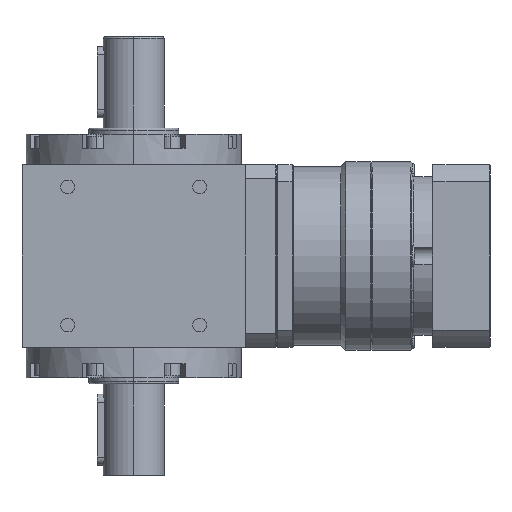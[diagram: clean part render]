
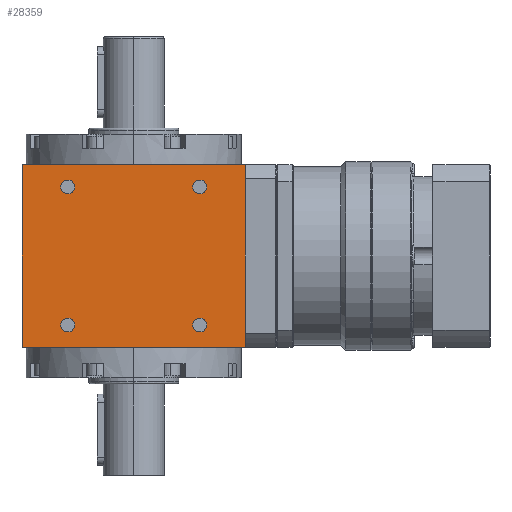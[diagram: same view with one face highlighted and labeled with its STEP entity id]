
A CAD part, left-side view. The second image highlights one B-rep face of the part: STEP entity #28359.
In plain terms, the highlighted planar face has unit normal (-1, 0, 0).
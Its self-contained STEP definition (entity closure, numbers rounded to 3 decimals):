
#354 = VECTOR ( 'NONE', #6203, 1000. ) ;
#466 = VERTEX_POINT ( 'NONE', #13939 ) ;
#484 = DIRECTION ( 'NONE',  ( 0., -1., 0. ) ) ;
#777 = ORIENTED_EDGE ( 'NONE', *, *, #29880, .T. ) ;
#851 = VERTEX_POINT ( 'NONE', #21915 ) ;
#880 = CARTESIAN_POINT ( 'NONE',  ( -55., 29.1, 34. ) ) ;
#1763 = VECTOR ( 'NONE', #21361, 1000. ) ;
#2000 = ORIENTED_EDGE ( 'NONE', *, *, #9046, .T. ) ;
#2588 = AXIS2_PLACEMENT_3D ( 'NONE', #20439, #17911, #25790 ) ;
#2680 = EDGE_CURVE ( 'NONE', #23462, #24659, #4003, .T. ) ;
#2733 = CARTESIAN_POINT ( 'NONE',  ( -55., -29.1, -34. ) ) ;
#4003 = LINE ( 'NONE', #6684, #354 ) ;
#4423 = LINE ( 'NONE', #20184, #15835 ) ;
#4756 = DIRECTION ( 'NONE',  ( 0., 0., 1. ) ) ;
#4916 = DIRECTION ( 'NONE',  ( -1., 0., 0. ) ) ;
#5074 = VERTEX_POINT ( 'NONE', #21902 ) ;
#5584 = CARTESIAN_POINT ( 'NONE',  ( -55., 0., -45. ) ) ;
#5636 = VERTEX_POINT ( 'NONE', #2733 ) ;
#6203 = DIRECTION ( 'NONE',  ( 0., 0., 1. ) ) ;
#6620 = CARTESIAN_POINT ( 'NONE',  ( -55., -55., -45. ) ) ;
#6684 = CARTESIAN_POINT ( 'NONE',  ( -55., 55., -45. ) ) ;
#7084 = FACE_OUTER_BOUND ( 'NONE', #28231, .T. ) ;
#7433 = FACE_BOUND ( 'NONE', #8395, .T. ) ;
#7652 = VERTEX_POINT ( 'NONE', #880 ) ;
#7754 = EDGE_LOOP ( 'NONE', ( #20871, #21885 ) ) ;
#8108 = EDGE_CURVE ( 'NONE', #7652, #5074, #18238, .T. ) ;
#8359 = CARTESIAN_POINT ( 'NONE',  ( -55., 32.5, 34. ) ) ;
#8395 = EDGE_LOOP ( 'NONE', ( #777, #29982 ) ) ;
#8681 = DIRECTION ( 'NONE',  ( 0., -1., 0. ) ) ;
#9046 = EDGE_CURVE ( 'NONE', #25236, #15081, #10443, .T. ) ;
#10149 = ORIENTED_EDGE ( 'NONE', *, *, #10852, .T. ) ;
#10227 = CARTESIAN_POINT ( 'NONE',  ( -55., -29.1, 34. ) ) ;
#10360 = DIRECTION ( 'NONE',  ( 1., 0., 0. ) ) ;
#10443 = CIRCLE ( 'NONE', #15292, 3.4 ) ;
#10526 = AXIS2_PLACEMENT_3D ( 'NONE', #8359, #15905, #8681 ) ;
#10574 = CIRCLE ( 'NONE', #17978, 3.4 ) ;
#10852 = EDGE_CURVE ( 'NONE', #15081, #25236, #10574, .T. ) ;
#11079 = LINE ( 'NONE', #5584, #26472 ) ;
#11418 = AXIS2_PLACEMENT_3D ( 'NONE', #30438, #10360, #20921 ) ;
#11659 = DIRECTION ( 'NONE',  ( 1., 0., 0. ) ) ;
#12252 = PLANE ( 'NONE',  #26005 ) ;
#12332 = AXIS2_PLACEMENT_3D ( 'NONE', #17867, #23413, #484 ) ;
#12522 = EDGE_CURVE ( 'NONE', #16985, #23738, #25029, .T. ) ;
#13113 = ORIENTED_EDGE ( 'NONE', *, *, #21339, .T. ) ;
#13260 = CARTESIAN_POINT ( 'NONE',  ( -55., -32.5, 34. ) ) ;
#13275 = VERTEX_POINT ( 'NONE', #6620 ) ;
#13421 = DIRECTION ( 'NONE',  ( 0., -1., 0. ) ) ;
#13547 = EDGE_LOOP ( 'NONE', ( #10149, #2000 ) ) ;
#13633 = LINE ( 'NONE', #20732, #1763 ) ;
#13678 = CARTESIAN_POINT ( 'NONE',  ( -55., 55., -45. ) ) ;
#13803 = ORIENTED_EDGE ( 'NONE', *, *, #31001, .T. ) ;
#13939 = CARTESIAN_POINT ( 'NONE',  ( -55., -55., 45. ) ) ;
#14044 = DIRECTION ( 'NONE',  ( 0., -1., 0. ) ) ;
#14791 = FACE_BOUND ( 'NONE', #29522, .T. ) ;
#14953 = FACE_BOUND ( 'NONE', #7754, .T. ) ;
#15081 = VERTEX_POINT ( 'NONE', #30134 ) ;
#15253 = EDGE_CURVE ( 'NONE', #5636, #851, #26285, .T. ) ;
#15292 = AXIS2_PLACEMENT_3D ( 'NONE', #13260, #15766, #31310 ) ;
#15766 = DIRECTION ( 'NONE',  ( 1., 0., 0. ) ) ;
#15835 = VECTOR ( 'NONE', #32350, 1000. ) ;
#15905 = DIRECTION ( 'NONE',  ( 1., 0., 0. ) ) ;
#16985 = VERTEX_POINT ( 'NONE', #19703 ) ;
#17406 = ORIENTED_EDGE ( 'NONE', *, *, #2680, .F. ) ;
#17636 = FACE_BOUND ( 'NONE', #13547, .T. ) ;
#17867 = CARTESIAN_POINT ( 'NONE',  ( -55., 32.5, 34. ) ) ;
#17911 = DIRECTION ( 'NONE',  ( 1., 0., 0. ) ) ;
#17978 = AXIS2_PLACEMENT_3D ( 'NONE', #22443, #32612, #14044 ) ;
#18238 = CIRCLE ( 'NONE', #12332, 3.4 ) ;
#19703 = CARTESIAN_POINT ( 'NONE',  ( -55., 29.1, -34. ) ) ;
#19874 = CARTESIAN_POINT ( 'NONE',  ( -55., 35.9, -34. ) ) ;
#19945 = AXIS2_PLACEMENT_3D ( 'NONE', #31897, #11659, #32048 ) ;
#20184 = CARTESIAN_POINT ( 'NONE',  ( -55., -55., -45. ) ) ;
#20439 = CARTESIAN_POINT ( 'NONE',  ( -55., 32.5, -34. ) ) ;
#20732 = CARTESIAN_POINT ( 'NONE',  ( -55., 0., 45. ) ) ;
#20755 = EDGE_CURVE ( 'NONE', #13275, #466, #4423, .T. ) ;
#20871 = ORIENTED_EDGE ( 'NONE', *, *, #12522, .T. ) ;
#20921 = DIRECTION ( 'NONE',  ( 0., -1., 0. ) ) ;
#21339 = EDGE_CURVE ( 'NONE', #5074, #7652, #21672, .T. ) ;
#21361 = DIRECTION ( 'NONE',  ( 0., -1., 0. ) ) ;
#21672 = CIRCLE ( 'NONE', #10526, 3.4 ) ;
#21885 = ORIENTED_EDGE ( 'NONE', *, *, #25447, .T. ) ;
#21902 = CARTESIAN_POINT ( 'NONE',  ( -55., 35.9, 34. ) ) ;
#21915 = CARTESIAN_POINT ( 'NONE',  ( -55., -35.9, -34. ) ) ;
#22443 = CARTESIAN_POINT ( 'NONE',  ( -55., -32.5, 34. ) ) ;
#22598 = CIRCLE ( 'NONE', #19945, 3.4 ) ;
#22841 = CARTESIAN_POINT ( 'NONE',  ( -55., 55., -45. ) ) ;
#23042 = ORIENTED_EDGE ( 'NONE', *, *, #20755, .T. ) ;
#23413 = DIRECTION ( 'NONE',  ( 1., 0., 0. ) ) ;
#23462 = VERTEX_POINT ( 'NONE', #13678 ) ;
#23599 = AXIS2_PLACEMENT_3D ( 'NONE', #28974, #26485, #31617 ) ;
#23738 = VERTEX_POINT ( 'NONE', #19874 ) ;
#24659 = VERTEX_POINT ( 'NONE', #30499 ) ;
#24766 = ORIENTED_EDGE ( 'NONE', *, *, #8108, .T. ) ;
#25029 = CIRCLE ( 'NONE', #2588, 3.4 ) ;
#25236 = VERTEX_POINT ( 'NONE', #10227 ) ;
#25253 = ORIENTED_EDGE ( 'NONE', *, *, #25722, .F. ) ;
#25447 = EDGE_CURVE ( 'NONE', #23738, #16985, #22598, .T. ) ;
#25722 = EDGE_CURVE ( 'NONE', #24659, #466, #13633, .T. ) ;
#25790 = DIRECTION ( 'NONE',  ( 0., -1., 0. ) ) ;
#26005 = AXIS2_PLACEMENT_3D ( 'NONE', #22841, #4916, #4756 ) ;
#26285 = CIRCLE ( 'NONE', #23599, 3.4 ) ;
#26472 = VECTOR ( 'NONE', #13421, 1000. ) ;
#26485 = DIRECTION ( 'NONE',  ( 1., 0., 0. ) ) ;
#28231 = EDGE_LOOP ( 'NONE', ( #17406, #13803, #23042, #25253 ) ) ;
#28359 = ADVANCED_FACE ( 'NONE', ( #7084, #14791, #14953, #7433, #17636 ), #12252, .T. ) ;
#28974 = CARTESIAN_POINT ( 'NONE',  ( -55., -32.5, -34. ) ) ;
#29522 = EDGE_LOOP ( 'NONE', ( #24766, #13113 ) ) ;
#29880 = EDGE_CURVE ( 'NONE', #851, #5636, #32752, .T. ) ;
#29982 = ORIENTED_EDGE ( 'NONE', *, *, #15253, .T. ) ;
#30134 = CARTESIAN_POINT ( 'NONE',  ( -55., -35.9, 34. ) ) ;
#30438 = CARTESIAN_POINT ( 'NONE',  ( -55., -32.5, -34. ) ) ;
#30499 = CARTESIAN_POINT ( 'NONE',  ( -55., 55., 45. ) ) ;
#31001 = EDGE_CURVE ( 'NONE', #23462, #13275, #11079, .T. ) ;
#31310 = DIRECTION ( 'NONE',  ( 0., -1., 0. ) ) ;
#31617 = DIRECTION ( 'NONE',  ( 0., -1., 0. ) ) ;
#31897 = CARTESIAN_POINT ( 'NONE',  ( -55., 32.5, -34. ) ) ;
#32048 = DIRECTION ( 'NONE',  ( 0., -1., 0. ) ) ;
#32350 = DIRECTION ( 'NONE',  ( 0., 0., 1. ) ) ;
#32612 = DIRECTION ( 'NONE',  ( 1., 0., 0. ) ) ;
#32752 = CIRCLE ( 'NONE', #11418, 3.4 ) ;
